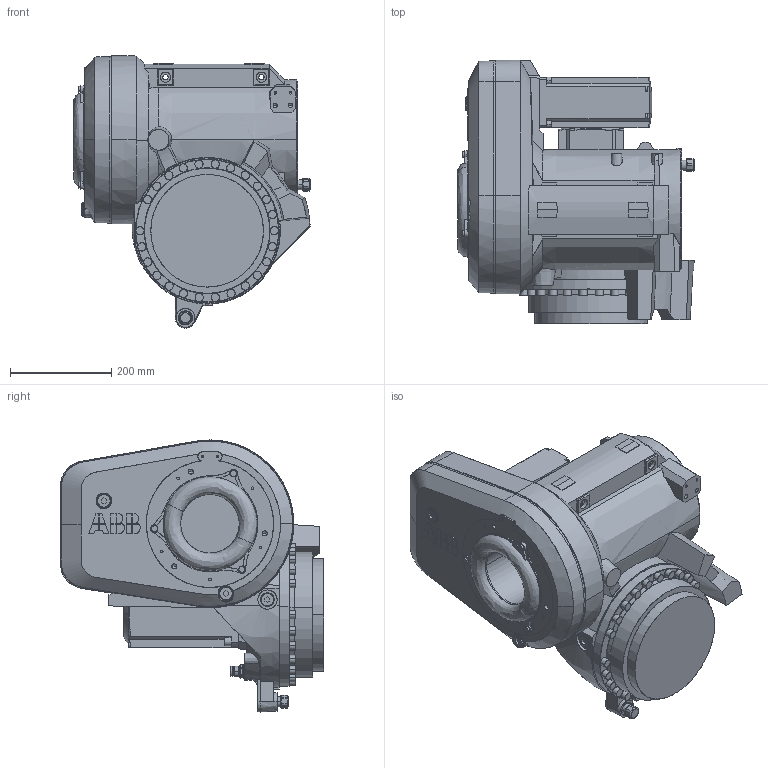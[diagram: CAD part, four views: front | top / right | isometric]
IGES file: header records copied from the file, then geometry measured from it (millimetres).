
Start section: SolidWorks IGES file using analytic representation for surfaces
Global section: file name: C:\Users\SEALDUN\OneDrive - ABB\Documents\R&D Robotics\Work Items\WI 632927\IGES\IRB5710-LID-SW_70kg-270_OC_02_IGES_J\IRB5710-LID_70kg-270_OmniCore_rev01_LINK03_CAD.igs; native system: SolidWorks 2024; preprocessor: SolidWorks 2024; author: SEALDUN; date: 250707.155321; units: millimetre
Bounding box: 468.99 x 521 x 538.61 mm (x, y, z)
Surface area: 1329265.3 mm2 (no closed solid volume)
Topology: 0 solids, 0 shells, 1000 faces, 15175 edges, 15139 vertices
Faces by surface type: bspline 567, revolution 433
